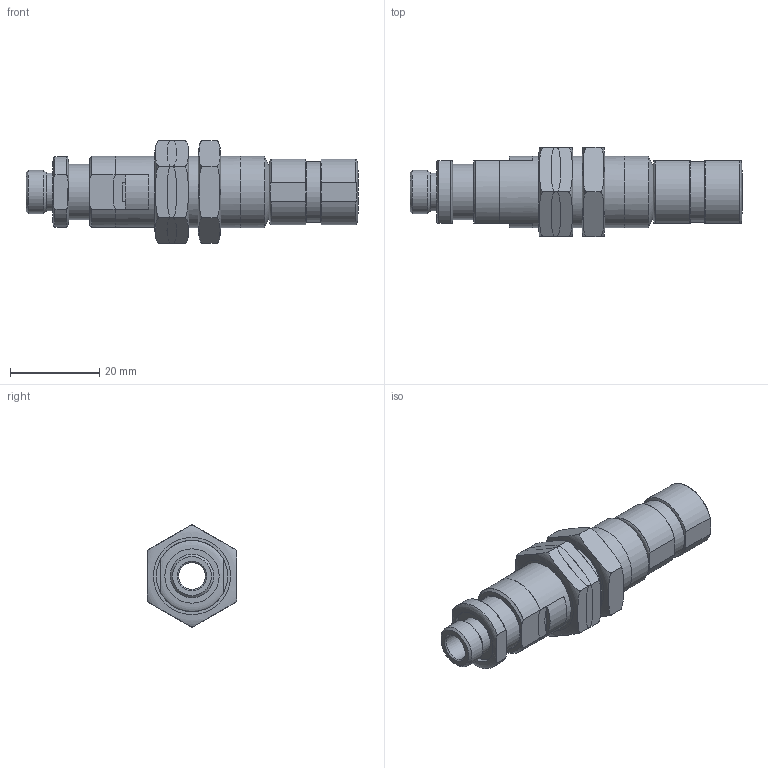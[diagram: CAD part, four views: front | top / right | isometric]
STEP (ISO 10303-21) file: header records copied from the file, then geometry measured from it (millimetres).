
FILE_DESCRIPTION( ( 'Unknown' ), '1' );
FILE_NAME( 'C:/Documents and Settings/Owner/官帕 拳搁/LEVEL SPRING HOMEPAGE/L1810TS/L1810TS.stp', 'Unknown', ( 'Unknown' ), ( 'Unknown' ), 'PSStep 10.0', 'Unknown', ' ' );
FILE_SCHEMA( ( 'AUTOMOTIVE_DESIGN { 1 0 10303 214 1 1 1 1 }' ) );
Length unit declared in the file: millimetre
Products named in the file (5): Assem1; sha; hou; upper; NUT(M16xp1)
Bounding box: 74.6 x 20 x 23.09 mm (x, y, z)
Surface area: 20092.8 mm2 (no closed solid volume)
Topology: 0 solids, 155 shells, 155 faces, 591 edges, 518 vertices
Faces by surface type: plane 66, cylinder 43, cone 22, revolution 14, torus 10
Full cylindrical faces by diameter (mm): 6 x2, 7 x2, 8.5 x2, 8.8 x2, 9.8 x6, 10 x4, 12.2 x2, 12.5 x4, 13.5 x2, 16 x5
Entity records: 4420 total; most frequent: CARTESIAN_POINT 1754, DIRECTION 446, ORIENTED_EDGE 230, EDGE_CURVE 230, VERTEX_POINT 230, AXIS2_PLACEMENT_3D 194, CIRCLE 122, FACE_BOUND 120
